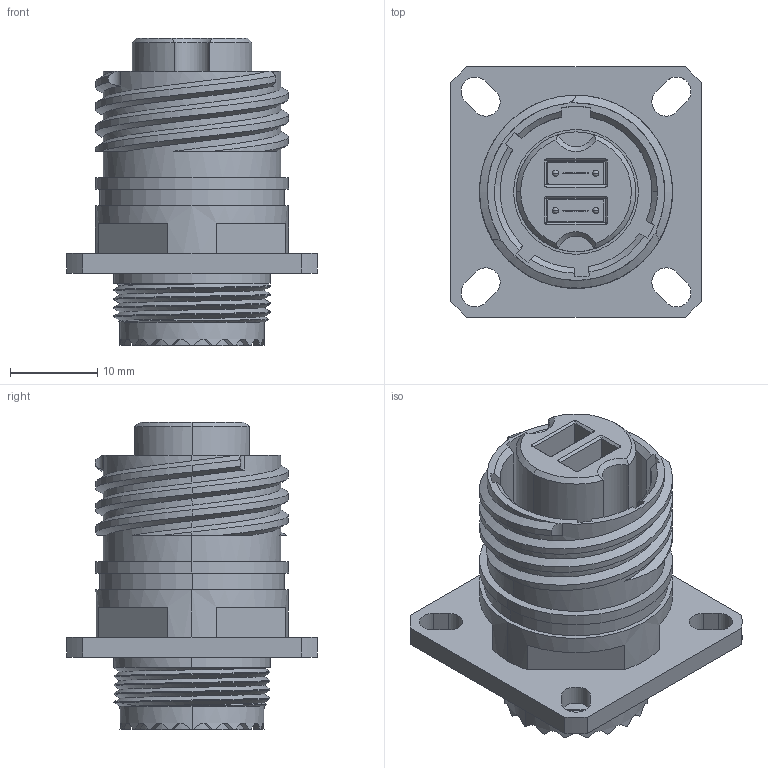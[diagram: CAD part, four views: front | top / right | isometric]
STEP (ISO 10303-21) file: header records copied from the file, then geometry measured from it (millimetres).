
FILE_DESCRIPTION (( 'STEP AP214' ), '1' );
FILE_NAME ('Q38MT-RFX-13XX-X-RA.STEP', '2025-12-18T16:58:04', ( '' ), ( '' ), 'SwSTEP 2.0', 'SolidWorks 2024', '' );
FILE_SCHEMA (( 'AUTOMOTIVE_DESIGN' ));
Length unit declared in the file: millimetre
Products named in the file (1): Q38MT-RFX-13XX-X-RA
Bounding box: 28.6 x 28.6 x 35.18 mm (x, y, z)
Volume: 9592 mm3; surface area: 6474.4 mm2
Topology: 1 solids, 1 shells, 403 faces, 1054 edges, 691 vertices
Faces by surface type: plane 199, cylinder 165, cone 22, bspline 9, sphere 8
Entity records: 14170 total; most frequent: CARTESIAN_POINT 4368, ORIENTED_EDGE 2092, DIRECTION 2076, EDGE_CURVE 1046, AXIS2_PLACEMENT_3D 820, VERTEX_POINT 691, EDGE_LOOP 457, LINE 436
